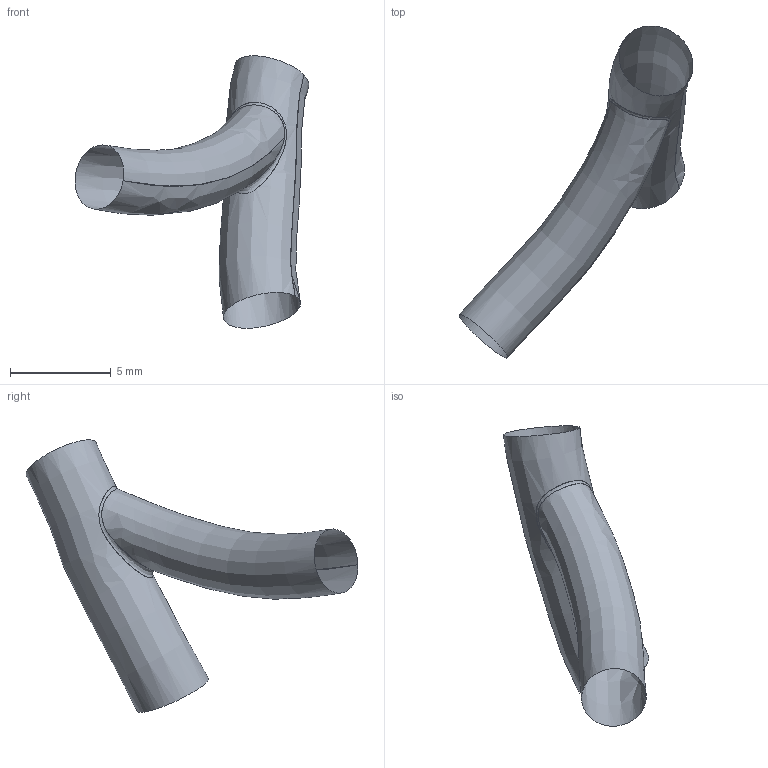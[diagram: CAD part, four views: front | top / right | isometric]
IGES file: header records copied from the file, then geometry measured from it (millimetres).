
Global section: file name: C:\Documents and Settings\Administrator\Desktop\FDA-Pig\Domestic LCA\Pig_000006\lcx.es.igs; native system: Rhinoceros ( May 19 2006 ); preprocessor: Trout Lake IGES 012 May 19 2006; date: 111205.183601; units: centimetre
Bounding box: 11.6 x 16.45 x 13.5 mm (x, y, z)
Surface area: 279.7 mm2 (no closed solid volume)
Topology: 0 solids, 0 shells, 3 faces, 52 edges, 49 vertices
Faces by surface type: bspline 3
